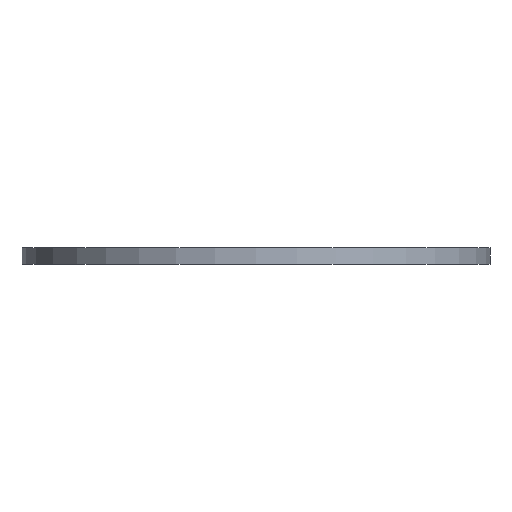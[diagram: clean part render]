
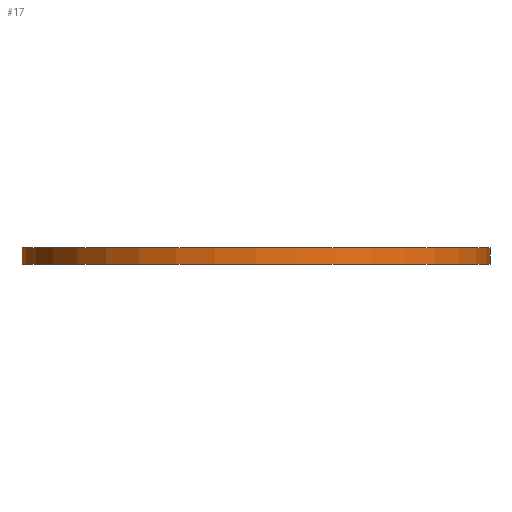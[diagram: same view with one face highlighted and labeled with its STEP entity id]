
A CAD part, front view. The second image highlights one B-rep face of the part: STEP entity #17.
In plain terms, the highlighted cylindrical face has radius 250 mm (diameter 500 mm), a full revolution.
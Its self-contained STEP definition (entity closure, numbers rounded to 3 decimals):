
#17 = ADVANCED_FACE('',(#18),#32,.T.);
#18 = FACE_BOUND('',#19,.F.);
#19 = EDGE_LOOP('',(#20,#50,#77,#78));
#20 = ORIENTED_EDGE('',*,*,#21,.T.);
#21 = EDGE_CURVE('',#22,#24,#26,.T.);
#22 = VERTEX_POINT('',#23);
#23 = CARTESIAN_POINT('',(250.,0.,-9.));
#24 = VERTEX_POINT('',#25);
#25 = CARTESIAN_POINT('',(250.,0.,9.));
#26 = SEAM_CURVE('',#27,(#31,#43),.PCURVE_S1.);
#27 = LINE('',#28,#29);
#28 = CARTESIAN_POINT('',(250.,0.,-9.));
#29 = VECTOR('',#30,1.);
#30 = DIRECTION('',(0.,0.,1.));
#31 = PCURVE('',#32,#37);
#32 = CYLINDRICAL_SURFACE('',#33,250.);
#33 = AXIS2_PLACEMENT_3D('',#34,#35,#36);
#34 = CARTESIAN_POINT('',(0.,0.,-9.));
#35 = DIRECTION('',(-0.,-0.,-1.));
#36 = DIRECTION('',(1.,0.,0.));
#37 = DEFINITIONAL_REPRESENTATION('',(#38),#42);
#38 = LINE('',#39,#40);
#39 = CARTESIAN_POINT('',(-0.,0.));
#40 = VECTOR('',#41,1.);
#41 = DIRECTION('',(-0.,-1.));
#42 = ( GEOMETRIC_REPRESENTATION_CONTEXT(2) 
PARAMETRIC_REPRESENTATION_CONTEXT() REPRESENTATION_CONTEXT('2D SPACE',''
  ) );
#43 = PCURVE('',#32,#44);
#44 = DEFINITIONAL_REPRESENTATION('',(#45),#49);
#45 = LINE('',#46,#47);
#46 = CARTESIAN_POINT('',(-6.283,0.));
#47 = VECTOR('',#48,1.);
#48 = DIRECTION('',(-0.,-1.));
#49 = ( GEOMETRIC_REPRESENTATION_CONTEXT(2) 
PARAMETRIC_REPRESENTATION_CONTEXT() REPRESENTATION_CONTEXT('2D SPACE',''
  ) );
#50 = ORIENTED_EDGE('',*,*,#51,.T.);
#51 = EDGE_CURVE('',#24,#24,#52,.T.);
#52 = SURFACE_CURVE('',#53,(#58,#65),.PCURVE_S1.);
#53 = CIRCLE('',#54,250.);
#54 = AXIS2_PLACEMENT_3D('',#55,#56,#57);
#55 = CARTESIAN_POINT('',(0.,0.,9.));
#56 = DIRECTION('',(0.,0.,1.));
#57 = DIRECTION('',(1.,0.,0.));
#58 = PCURVE('',#32,#59);
#59 = DEFINITIONAL_REPRESENTATION('',(#60),#64);
#60 = LINE('',#61,#62);
#61 = CARTESIAN_POINT('',(-0.,-18.));
#62 = VECTOR('',#63,1.);
#63 = DIRECTION('',(-1.,0.));
#64 = ( GEOMETRIC_REPRESENTATION_CONTEXT(2) 
PARAMETRIC_REPRESENTATION_CONTEXT() REPRESENTATION_CONTEXT('2D SPACE',''
  ) );
#65 = PCURVE('',#66,#71);
#66 = PLANE('',#67);
#67 = AXIS2_PLACEMENT_3D('',#68,#69,#70);
#68 = CARTESIAN_POINT('',(0.,0.,9.));
#69 = DIRECTION('',(0.,0.,1.));
#70 = DIRECTION('',(1.,0.,-0.));
#71 = DEFINITIONAL_REPRESENTATION('',(#72),#76);
#72 = CIRCLE('',#73,250.);
#73 = AXIS2_PLACEMENT_2D('',#74,#75);
#74 = CARTESIAN_POINT('',(0.,0.));
#75 = DIRECTION('',(1.,0.));
#76 = ( GEOMETRIC_REPRESENTATION_CONTEXT(2) 
PARAMETRIC_REPRESENTATION_CONTEXT() REPRESENTATION_CONTEXT('2D SPACE',''
  ) );
#77 = ORIENTED_EDGE('',*,*,#21,.F.);
#78 = ORIENTED_EDGE('',*,*,#79,.F.);
#79 = EDGE_CURVE('',#22,#22,#80,.T.);
#80 = SURFACE_CURVE('',#81,(#86,#93),.PCURVE_S1.);
#81 = CIRCLE('',#82,250.);
#82 = AXIS2_PLACEMENT_3D('',#83,#84,#85);
#83 = CARTESIAN_POINT('',(0.,0.,-9.));
#84 = DIRECTION('',(0.,0.,1.));
#85 = DIRECTION('',(1.,0.,0.));
#86 = PCURVE('',#32,#87);
#87 = DEFINITIONAL_REPRESENTATION('',(#88),#92);
#88 = LINE('',#89,#90);
#89 = CARTESIAN_POINT('',(-0.,0.));
#90 = VECTOR('',#91,1.);
#91 = DIRECTION('',(-1.,0.));
#92 = ( GEOMETRIC_REPRESENTATION_CONTEXT(2) 
PARAMETRIC_REPRESENTATION_CONTEXT() REPRESENTATION_CONTEXT('2D SPACE',''
  ) );
#93 = PCURVE('',#94,#99);
#94 = PLANE('',#95);
#95 = AXIS2_PLACEMENT_3D('',#96,#97,#98);
#96 = CARTESIAN_POINT('',(0.,0.,-9.));
#97 = DIRECTION('',(0.,0.,1.));
#98 = DIRECTION('',(1.,0.,-0.));
#99 = DEFINITIONAL_REPRESENTATION('',(#100),#104);
#100 = CIRCLE('',#101,250.);
#101 = AXIS2_PLACEMENT_2D('',#102,#103);
#102 = CARTESIAN_POINT('',(0.,0.));
#103 = DIRECTION('',(1.,0.));
#104 = ( GEOMETRIC_REPRESENTATION_CONTEXT(2) 
PARAMETRIC_REPRESENTATION_CONTEXT() REPRESENTATION_CONTEXT('2D SPACE',''
  ) );
